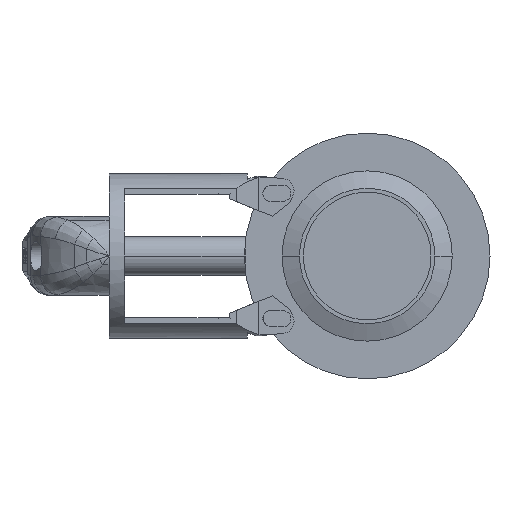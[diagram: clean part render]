
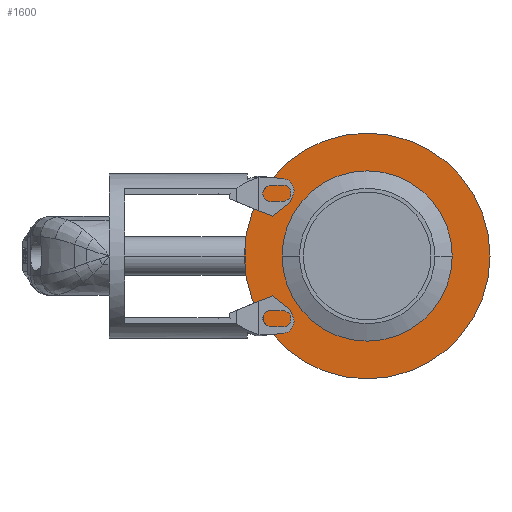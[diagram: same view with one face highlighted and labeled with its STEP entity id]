
A CAD part, left-side view. The second image highlights one B-rep face of the part: STEP entity #1600.
In plain terms, the highlighted planar face has unit normal (-1, 0, 0) as drawn and (1, 0, 0) by its records, which use the part's own axes.
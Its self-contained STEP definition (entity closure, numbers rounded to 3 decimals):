
#540=CARTESIAN_POINT('',(-88.126,-18.125,
0.));
#550=VERTEX_POINT('',#540);
#950=CARTESIAN_POINT('',(-88.126,108.875,0.));
#960=VERTEX_POINT('',#950);
#990=CARTESIAN_POINT('',(-88.126,45.375,0.));
#1000=DIRECTION('',(1.,0.,-0.));
#1010=DIRECTION('',(0.,1.,0.));
#1020=AXIS2_PLACEMENT_3D('',#990,#1000,#1010);
#1030=CIRCLE('',#1020,63.5);
#1040=EDGE_CURVE('',#960,#550,#1030,.T.);
#1350=CARTESIAN_POINT('',(-88.126,92.975,0.));
#1360=DIRECTION('',(1.,0.,0.));
#1370=DIRECTION('',(0.,1.,0.));
#1380=AXIS2_PLACEMENT_3D('',#1350,#1360,#1370);
#1390=PLANE('',#1380);
#1400=CARTESIAN_POINT('',(-88.126,45.375,0.));
#1410=DIRECTION('',(1.,0.,0.));
#1420=DIRECTION('',(0.,1.,0.));
#1430=AXIS2_PLACEMENT_3D('',#1400,#1410,#1420);
#1440=CIRCLE('',#1430,44.);
#1450=CARTESIAN_POINT('',(-88.126,1.375,
0.));
#1460=VERTEX_POINT('',#1450);
#1470=CARTESIAN_POINT('',(-88.126,89.375,0.));
#1480=VERTEX_POINT('',#1470);
#1490=EDGE_CURVE('',#1460,#1480,#1440,.T.);
#1500=ORIENTED_EDGE('',*,*,#1490,.F.);
#1510=EDGE_CURVE('',#1480,#1460,#1440,.T.);
#1520=ORIENTED_EDGE('',*,*,#1510,.F.);
#1530=EDGE_LOOP('',(#1520,#1500));
#1540=FACE_BOUND('',#1530,.T.);
#1550=EDGE_CURVE('',#550,#960,#1030,.T.);
#1560=ORIENTED_EDGE('',*,*,#1550,.T.);
#1570=ORIENTED_EDGE('',*,*,#1040,.T.);
#1580=EDGE_LOOP('',(#1570,#1560));
#1590=FACE_OUTER_BOUND('',#1580,.T.);
#1600=ADVANCED_FACE('',(#1540,#1590),#1390,.T.);
